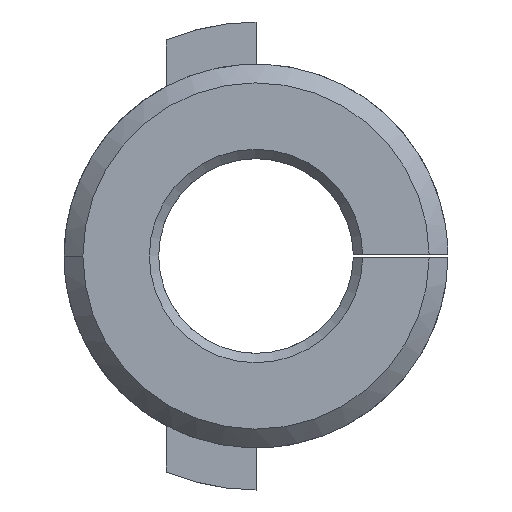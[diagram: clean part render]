
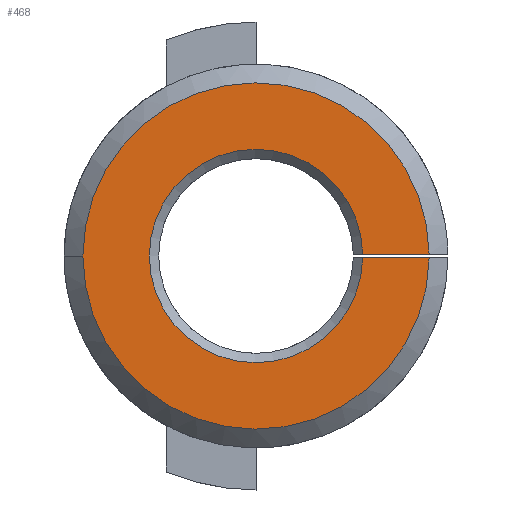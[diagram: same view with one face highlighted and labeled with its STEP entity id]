
A CAD part, front view. The second image highlights one B-rep face of the part: STEP entity #468.
In plain terms, the highlighted planar face has unit normal (0, -1, 0).
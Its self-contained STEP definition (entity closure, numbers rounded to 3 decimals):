
#27 = CARTESIAN_POINT ( 'NONE',  ( 5.699, 0., -0.1 ) ) ;
#52 = DIRECTION ( 'NONE',  ( 1., 0., 0. ) ) ;
#77 = CARTESIAN_POINT ( 'NONE',  ( 3.155, 0., -0.1 ) ) ;
#139 = EDGE_CURVE ( 'NONE', #1442, #520, #907, .T. ) ;
#254 = CARTESIAN_POINT ( 'NONE',  ( 0., 0., 0. ) ) ;
#259 = EDGE_CURVE ( 'NONE', #870, #1370, #1113, .T. ) ;
#310 = ORIENTED_EDGE ( 'NONE', *, *, #960, .T. ) ;
#326 = DIRECTION ( 'NONE',  ( 1., 0., 0. ) ) ;
#358 = DIRECTION ( 'NONE',  ( 0., -1., 0. ) ) ;
#405 = CIRCLE ( 'NONE', #1092, 9.25 ) ;
#456 = ORIENTED_EDGE ( 'NONE', *, *, #1548, .T. ) ;
#467 = FACE_OUTER_BOUND ( 'NONE', #691, .T. ) ;
#468 = ADVANCED_FACE ( 'NONE', ( #467 ), #750, .T. ) ;
#482 = CARTESIAN_POINT ( 'NONE',  ( 9.25, 0., 0.1 ) ) ;
#516 = AXIS2_PLACEMENT_3D ( 'NONE', #746, #358, #1242 ) ;
#520 = VERTEX_POINT ( 'NONE', #27 ) ;
#571 = ORIENTED_EDGE ( 'NONE', *, *, #139, .T. ) ;
#585 = EDGE_CURVE ( 'NONE', #1370, #1442, #405, .T. ) ;
#599 = CARTESIAN_POINT ( 'NONE',  ( -9.25, 0., 0. ) ) ;
#633 = VECTOR ( 'NONE', #697, 1000. ) ;
#646 = DIRECTION ( 'NONE',  ( 0., 1., 0. ) ) ;
#658 = LINE ( 'NONE', #1317, #759 ) ;
#691 = EDGE_LOOP ( 'NONE', ( #456, #1324, #1590, #571, #310 ) ) ;
#697 = DIRECTION ( 'NONE',  ( -1., 0., 0. ) ) ;
#746 = CARTESIAN_POINT ( 'NONE',  ( 0., 0., 0. ) ) ;
#750 = PLANE ( 'NONE',  #774 ) ;
#757 = CARTESIAN_POINT ( 'NONE',  ( 9.25, 0., -0.1 ) ) ;
#759 = VECTOR ( 'NONE', #326, 1000. ) ;
#774 = AXIS2_PLACEMENT_3D ( 'NONE', #1654, #1646, #876 ) ;
#870 = VERTEX_POINT ( 'NONE', #482 ) ;
#876 = DIRECTION ( 'NONE',  ( 1., 0., 0. ) ) ;
#907 = LINE ( 'NONE', #77, #633 ) ;
#943 = DIRECTION ( 'NONE',  ( 0., -1., 0. ) ) ;
#960 = EDGE_CURVE ( 'NONE', #520, #1498, #1222, .T. ) ;
#1036 = AXIS2_PLACEMENT_3D ( 'NONE', #254, #646, #1252 ) ;
#1092 = AXIS2_PLACEMENT_3D ( 'NONE', #1205, #943, #52 ) ;
#1113 = CIRCLE ( 'NONE', #516, 9.25 ) ;
#1173 = CARTESIAN_POINT ( 'NONE',  ( 5.699, 0., 0.1 ) ) ;
#1205 = CARTESIAN_POINT ( 'NONE',  ( 0., 0., 0. ) ) ;
#1222 = CIRCLE ( 'NONE', #1036, 5.7 ) ;
#1242 = DIRECTION ( 'NONE',  ( 1., 0., 0. ) ) ;
#1252 = DIRECTION ( 'NONE',  ( 1., 0., 0. ) ) ;
#1317 = CARTESIAN_POINT ( 'NONE',  ( 11.451, 0., 0.1 ) ) ;
#1324 = ORIENTED_EDGE ( 'NONE', *, *, #259, .T. ) ;
#1370 = VERTEX_POINT ( 'NONE', #599 ) ;
#1442 = VERTEX_POINT ( 'NONE', #757 ) ;
#1498 = VERTEX_POINT ( 'NONE', #1173 ) ;
#1548 = EDGE_CURVE ( 'NONE', #1498, #870, #658, .T. ) ;
#1590 = ORIENTED_EDGE ( 'NONE', *, *, #585, .T. ) ;
#1646 = DIRECTION ( 'NONE',  ( 0., -1., 0. ) ) ;
#1654 = CARTESIAN_POINT ( 'NONE',  ( 0., 0., 0. ) ) ;
